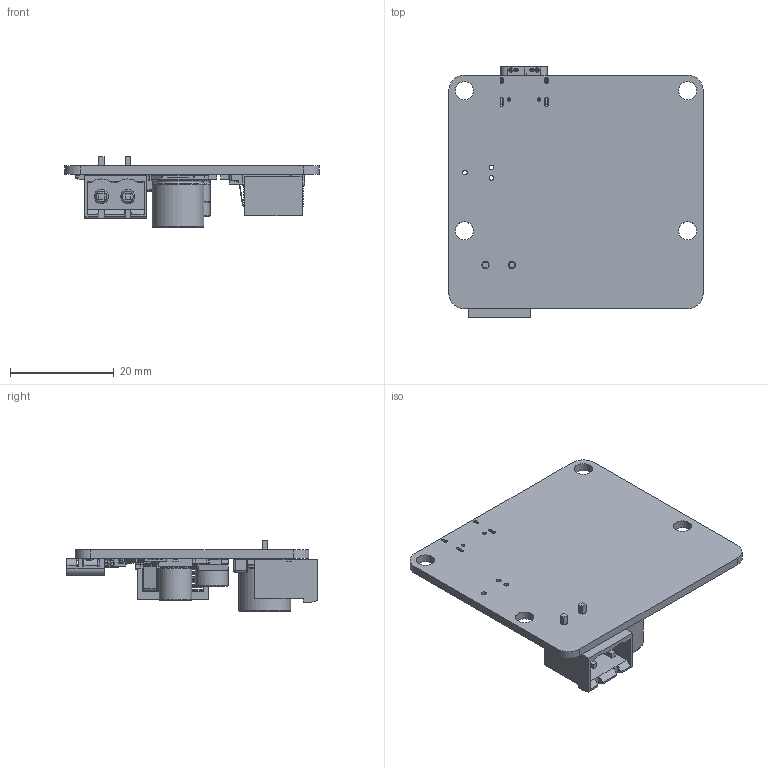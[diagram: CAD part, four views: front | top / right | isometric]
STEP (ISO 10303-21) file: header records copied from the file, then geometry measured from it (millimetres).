
FILE_DESCRIPTION(/* description */ (''),/* implementation_level */ '2;1');
FILE_NAME(/* name */ 'CG-PDHV82W-PCBA.step',/* time_stamp */ '2023-03-07T17:07:13-05:00',/* author */ (''),/* organization */ (''),/* preprocessor_version */ 'ST-DEVELOPER v19.2',/* originating_system */ 'Autodesk Translation Framework v11.17.0.187',/* authorisation */ '');
FILE_SCHEMA (('AUTOMOTIVE_DESIGN { 1 0 10303 214 3 1 1 }'));
Products named in the file (70): (Unsaved); Board; Open CASCADE STEP translator 6.8 1.1.1; Component (12); Component (14); User_Library-SOT-23-6-3; Component (15); Component (16); Component (17); Component (18); Fuse_Littelfuse_1206L150THWR; Component (19); User_Library-SOT89-3-2; Component (13); Tri_color_0606; 2-Pin Terminal Block Input; c-796638-2-c3-3d; Component (11); User_Library-Littlefuse_0451_SMD; Component (10); Component (9); Component (8); Component (1); User_Library-ALU-G; User_Library-ALU-G_Pins_1; User_Library-ALU-G_Fuss_1; User_Library-ALU-G_K_X_F6rper_1; User_Library-ALU-G_Beschriftung_1; Component (4); Component (7); User_Library-SOD323F; USB Type-C; User_Library-USB_-_C_m; Component (6); User_Library-DO-214AB_SMC; Component (5); SW3dPS-so-8; Component (3); User_Library-Sumida_147; Component (2)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
Assembly tree (97 placements, depth 4):
  (Unsaved)
    Board
      Open CASCADE STEP translator 6.8 1.1.1
    Component (12)
      User_Library-CAPC3216X10
    Component (14)
      User_Library-SOT-23-6-3
    Component (15)
      User_Library-CAPC3216X10
    Component (16)
      User_Library-CAPC3216X10
    Component (17)
      User_Library-CAPC3216X10
    Component (18)
      Fuse_Littelfuse_1206L150THWR
    Component (19)
      User_Library-SOT89-3-2
    Component (13)
      Tri_color_0606
    2-Pin Terminal Block Input
      c-796638-2-c3-3d
    Component (11)
      User_Library-Littlefuse_0451_SMD
    Component (10)
      User_Library-CAPC3216X10
    Component (9)
      User_Library-CAPC3216X10
    Component (8)
      User_Library-CAPC3216X10
    Component (1)
      User_Library-ALU-G
        User_Library-ALU-G_Pins_1
        User_Library-ALU-G_Fuss_1
        User_Library-ALU-G_K_X_F6rper_1
        User_Library-ALU-G_Beschriftung_1
    Component (4)
      User_Library-CAPC3216X10
    Component (7)
      User_Library-SOD323F
    USB Type-C
      User_Library-USB_-_C_m
    Component (6)
      User_Library-DO-214AB_SMC
    Component (5)
      SW3dPS-so-8
    Component (3)
      User_Library-Sumida_147
    Component (2)
      User_Library-CC0607
    Component (23)
      6318962656
      6318962336  x6
        Extruded
      6318961296  x6
        Extruded (1)
      6318960176  x6
        Extruded (2)
      6318959056  x6
        Extruded (3)
    LED1WTF-HV_CCG3PA
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Bounding box: 49 x 48.21 x 13.55 mm (x, y, z)
Volume: 6521.2 mm3; surface area: 10754.8 mm2
Topology: 77 solids, 86 shells, 3973 faces, 10489 edges, 6652 vertices
Faces by surface type: plane 2530, cylinder 860, bspline 345, sphere 138, torus 74, cone 26
Full cylindrical faces by diameter (mm): 0.08 x1, 0.1 x1, 0.122 x1, 0.2 x1, 0.26 x2, 0.455 x2, 0.5 x2, 0.65 x2, 0.692 x2, 0.889 x3, 1 x4, 1.4 x2, 3.5 x4, 5.7 x1, 6.3 x4, 6.4 x1, 6.6 x9, 10 x2, 11.4 x8
Entity records: 123034 total; most frequent: CARTESIAN_POINT 32655, ORIENTED_EDGE 18696, DIRECTION 16977, EDGE_CURVE 9350, LINE 7005, VECTOR 7005, VERTEX_POINT 6044, AXIS2_PLACEMENT_3D 4986
